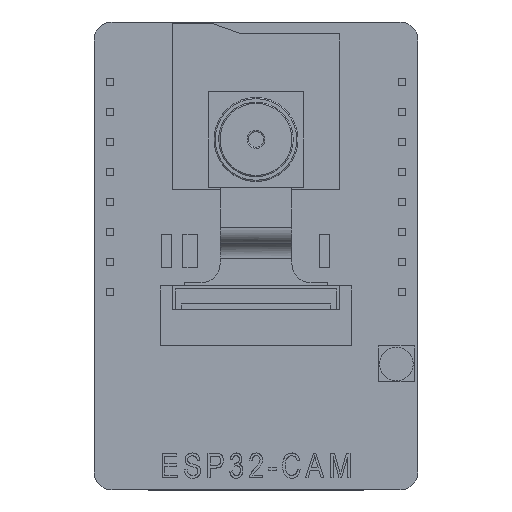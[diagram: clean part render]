
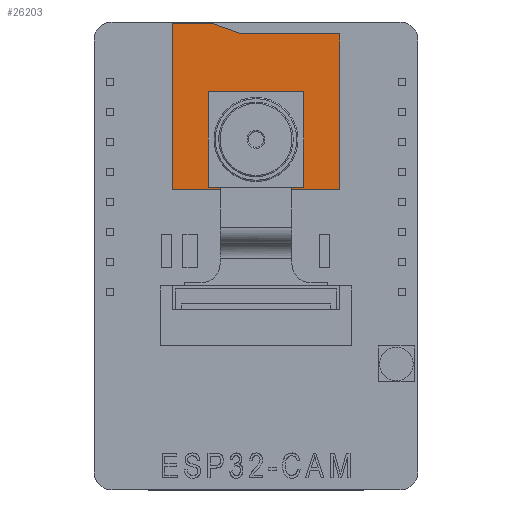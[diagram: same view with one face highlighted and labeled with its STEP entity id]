
A CAD part, top view. The second image highlights one B-rep face of the part: STEP entity #26203.
In plain terms, the highlighted planar face has unit normal (0, 0, 1).
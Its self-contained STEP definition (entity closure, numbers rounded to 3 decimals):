
#26094=CARTESIAN_POINT('Vertex',(6.504,38.9,3.)) ;
#26108=CARTESIAN_POINT('Vertex',(6.504,25.,3.)) ;
#26111=CARTESIAN_POINT('Line Origine',(6.504,31.95,3.)) ;
#26123=CARTESIAN_POINT('Axis2P3D Location',(13.504,19.5,3.)) ;
#26128=CARTESIAN_POINT('Line Origine',(13.504,25.,3.)) ;
#26132=CARTESIAN_POINT('Vertex',(20.504,25.,3.)) ;
#26135=CARTESIAN_POINT('Line Origine',(20.504,31.5,3.)) ;
#26139=CARTESIAN_POINT('Vertex',(20.504,38.,3.)) ;
#26142=CARTESIAN_POINT('Line Origine',(16.404,38.,3.)) ;
#26146=CARTESIAN_POINT('Vertex',(12.304,38.,3.)) ;
#26149=CARTESIAN_POINT('Line Origine',(11.044,38.45,3.)) ;
#26153=CARTESIAN_POINT('Vertex',(9.784,38.9,3.)) ;
#26156=CARTESIAN_POINT('Line Origine',(8.144,38.9,3.)) ;
#26169=CARTESIAN_POINT('Line Origine',(13.504,33.2,3.)) ;
#26173=CARTESIAN_POINT('Vertex',(17.504,33.2,3.)) ;
#26175=CARTESIAN_POINT('Vertex',(9.504,33.2,3.)) ;
#26178=CARTESIAN_POINT('Line Origine',(17.504,29.2,3.)) ;
#26182=CARTESIAN_POINT('Vertex',(17.504,25.2,3.)) ;
#26185=CARTESIAN_POINT('Line Origine',(13.504,25.2,3.)) ;
#26189=CARTESIAN_POINT('Vertex',(9.504,25.2,3.)) ;
#26192=CARTESIAN_POINT('Line Origine',(9.504,29.2,3.)) ;
#26112=DIRECTION('Vector Direction',(0.,-1.,0.)) ;
#26124=DIRECTION('Axis2P3D Direction',(-0.,0.,1.)) ;
#26125=DIRECTION('Axis2P3D XDirection',(0.,-1.,0.)) ;
#26129=DIRECTION('Vector Direction',(1.,0.,0.)) ;
#26136=DIRECTION('Vector Direction',(0.,1.,0.)) ;
#26143=DIRECTION('Vector Direction',(-1.,0.,0.)) ;
#26150=DIRECTION('Vector Direction',(-0.942,0.336,0.)) ;
#26157=DIRECTION('Vector Direction',(-1.,0.,0.)) ;
#26170=DIRECTION('Vector Direction',(-1.,0.,0.)) ;
#26179=DIRECTION('Vector Direction',(0.,1.,0.)) ;
#26186=DIRECTION('Vector Direction',(1.,0.,0.)) ;
#26193=DIRECTION('Vector Direction',(0.,-1.,0.)) ;
#26126=AXIS2_PLACEMENT_3D('Plane Axis2P3D',#26123,#26124,#26125) ;
#26162=ORIENTED_EDGE('',*,*,#26115,.T.) ;
#26163=ORIENTED_EDGE('',*,*,#26134,.T.) ;
#26164=ORIENTED_EDGE('',*,*,#26141,.T.) ;
#26165=ORIENTED_EDGE('',*,*,#26148,.T.) ;
#26166=ORIENTED_EDGE('',*,*,#26155,.T.) ;
#26167=ORIENTED_EDGE('',*,*,#26160,.T.) ;
#26198=ORIENTED_EDGE('',*,*,#26177,.F.) ;
#26199=ORIENTED_EDGE('',*,*,#26184,.F.) ;
#26200=ORIENTED_EDGE('',*,*,#26191,.F.) ;
#26201=ORIENTED_EDGE('',*,*,#26196,.F.) ;
#26202=FACE_BOUND('',#26197,.T.) ;
#26113=VECTOR('Line Direction',#26112,1.) ;
#26130=VECTOR('Line Direction',#26129,1.) ;
#26137=VECTOR('Line Direction',#26136,1.) ;
#26144=VECTOR('Line Direction',#26143,1.) ;
#26151=VECTOR('Line Direction',#26150,1.) ;
#26158=VECTOR('Line Direction',#26157,1.) ;
#26171=VECTOR('Line Direction',#26170,1.) ;
#26180=VECTOR('Line Direction',#26179,1.) ;
#26187=VECTOR('Line Direction',#26186,1.) ;
#26194=VECTOR('Line Direction',#26193,1.) ;
#26203=ADVANCED_FACE('FinalBody',(#26168,#26202),#26127,.T.) ;
#26115=EDGE_CURVE('',#26095,#26109,#26114,.T.) ;
#26134=EDGE_CURVE('',#26109,#26133,#26131,.T.) ;
#26141=EDGE_CURVE('',#26133,#26140,#26138,.T.) ;
#26148=EDGE_CURVE('',#26140,#26147,#26145,.T.) ;
#26155=EDGE_CURVE('',#26147,#26154,#26152,.T.) ;
#26160=EDGE_CURVE('',#26154,#26095,#26159,.T.) ;
#26177=EDGE_CURVE('',#26174,#26176,#26172,.T.) ;
#26184=EDGE_CURVE('',#26183,#26174,#26181,.T.) ;
#26191=EDGE_CURVE('',#26190,#26183,#26188,.T.) ;
#26196=EDGE_CURVE('',#26176,#26190,#26195,.T.) ;
#26161=EDGE_LOOP('',(#26162,#26163,#26164,#26165,#26166,#26167)) ;
#26197=EDGE_LOOP('',(#26198,#26199,#26200,#26201)) ;
#26168=FACE_OUTER_BOUND('',#26161,.T.) ;
#26114=LINE('Line',#26111,#26113) ;
#26131=LINE('Line',#26128,#26130) ;
#26138=LINE('Line',#26135,#26137) ;
#26145=LINE('Line',#26142,#26144) ;
#26152=LINE('Line',#26149,#26151) ;
#26159=LINE('Line',#26156,#26158) ;
#26172=LINE('Line',#26169,#26171) ;
#26181=LINE('Line',#26178,#26180) ;
#26188=LINE('Line',#26185,#26187) ;
#26195=LINE('Line',#26192,#26194) ;
#26127=PLANE('Plane',#26126) ;
#26095=VERTEX_POINT('',#26094) ;
#26109=VERTEX_POINT('',#26108) ;
#26133=VERTEX_POINT('',#26132) ;
#26140=VERTEX_POINT('',#26139) ;
#26147=VERTEX_POINT('',#26146) ;
#26154=VERTEX_POINT('',#26153) ;
#26174=VERTEX_POINT('',#26173) ;
#26176=VERTEX_POINT('',#26175) ;
#26183=VERTEX_POINT('',#26182) ;
#26190=VERTEX_POINT('',#26189) ;
